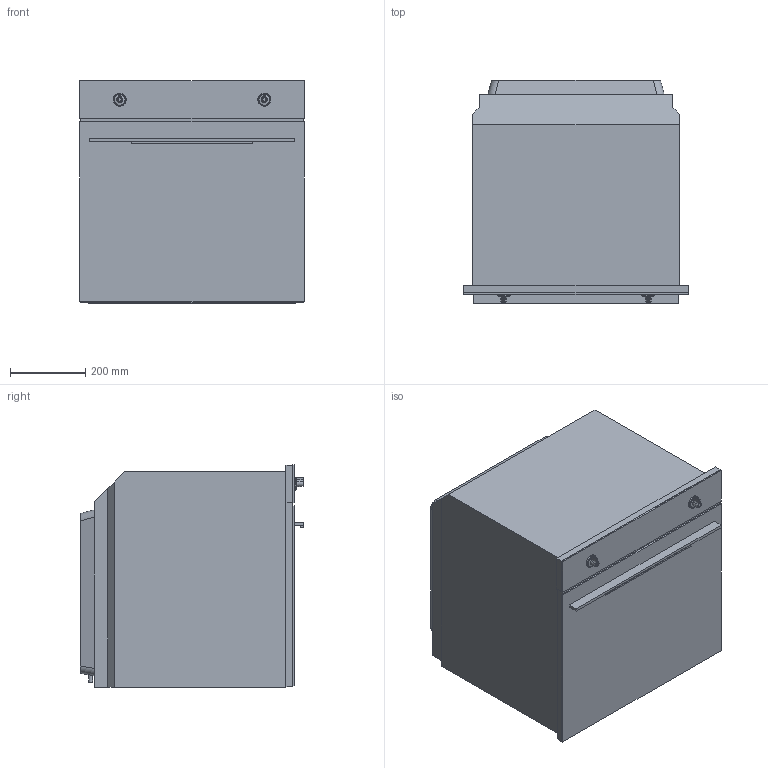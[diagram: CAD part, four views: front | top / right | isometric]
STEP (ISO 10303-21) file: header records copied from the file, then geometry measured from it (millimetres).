
FILE_DESCRIPTION(/* description */ ('Unknown'),/* implementation_level */ '2;1');
FILE_NAME(/* name */ 'SF6101TB3',/* time_stamp */ '2025-06-11T10:02:35+02:00',/* author */ ('Unknown'),/* organization */ ('Unknown'),/* preprocessor_version */ 'ST-DEVELOPER v16.7',/* originating_system */ 'DEX',/* authorisation */ $);
FILE_SCHEMA (('AUTOMOTIVE_DESIGN {1 0 10303 214 3 1 1}'));
Length unit declared in the file: millimetre
Products named in the file (1): SF6101TB3
Bounding box: 597 x 595.85 x 591.85 mm (x, y, z)
Volume: 174054934.1 mm3; surface area: 2640268.8 mm2
Topology: 3 solids, 3 shells, 95 faces, 252 edges, 168 vertices
Faces by surface type: plane 67, cone 17, cylinder 11
Full cylindrical faces by diameter (mm): 10 x1
Entity records: 3375 total; most frequent: CARTESIAN_POINT 599, ORIENTED_EDGE 478, DIRECTION 454, EDGE_CURVE 239, VERTEX_POINT 164, LINE 164, VECTOR 164, AXIS2_PLACEMENT_3D 145
